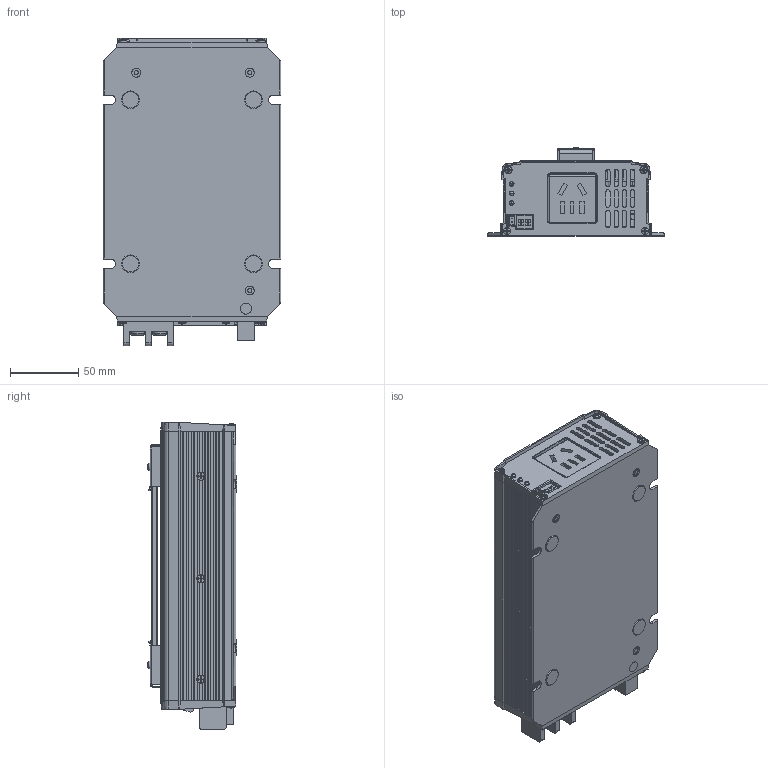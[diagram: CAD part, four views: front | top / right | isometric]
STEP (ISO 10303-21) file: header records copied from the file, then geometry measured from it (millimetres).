
FILE_DESCRIPTION(('Creo Elements/Direct Modeling STEP Export'),'2;1');
FILE_NAME('NTS-450CN.stp','2024-07-09T14:07:04',(''),(''),'PTC Creo Elements/Direct Modeling STEP processor for AP214 (Solid Model)','PTC Creo Elements/Direct Modeling 19.0E 27-Jun-2016 (C) Parametric Technology GmbH','');
FILE_SCHEMA(('AUTOMOTIVE_DESIGN { 1 0 10303 214 1 1 1 1 }'));
Length unit declared in the file: millimetre
Products named in the file (130): 中国插; 中国插.stp; CASE1下盖22; M3-5.5-3; 77; M3-5.5-1; M3-5.5-2; 下盖; FOOT_PAD_7_1.PRT.29; FOOT_PAD_7_1.PRT; FOOT_PAD_7_1.PRT.31; FOOT_PAD_7_1.PRT.30; PAD; 上盖; 19-30281-0250__w__.1; 19-30281-0250__w__.2.1; 19-30281-0250__w__.2.1.1; 19-30281-0250__w__.2; 19-30281-0250__w__.2.1.1.1; 19-30281-0250__w__; 19-30286-1312__w__.1.1.1.1; 19-30286-1312__w__.1.1.1; 19-30286-1312__w__.1; 19-30286-1312__w__.1.1; 面板螺丝; 面板螺丝2; 19-30286-1312__w__.1.2; 19-30286-1312__w__.1.2.1; 螺丝; 1HH2NTS-450; p1; 1.4; 1.5; 1.3; 1.2; 1.1; 1.6; 2.2; 2.1; 2.5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
Assembly tree (128 placements, depth 6):
  中国插.stp
    中国插
      中国插
  NTS-450CN.stp
    NTS-450
      1xx3NTS-450CN-O
        1xx3NTS-450CN-O
      1XX3NTS-450-I
      风扇螺丝
        19-30286-1312__w__.1.2.1.1.1
        19-30286-1312__w__.1.2.1.1
        19-30286-1312__w__.1.2.1
        19-30286-1312__w__.1.2
      把手
        174
        guwei1
        guwei1.1
      FAN
        26D77668-81B1-466B-87E3--601440.PRT
      输入端装配2
        ON.PRT.1
        FG.1
        TN_1
      装配2
        TF
        c2.1
        c2
        CX2
        CX1
        CX1.1
        CX2.1
        CX1.1.1
        C
      HS
        1GG1HS-SZ137.1
        1GG1HS-SZ137
        1GG4CU-SZ028
        1GG4CU-SZ030
        1GG4CU-SZ029
        1GG1HS-SZ137old
        1GG1HS-SZ138
        1GG1HS-SZ129
          PIN2-2.1
          PIN2-2
          SZ1
        1GG1HS-SZ130
          PIN2-2.1
          PIN2-2
          SZ1
      MOS
        TO220(2).2.1.1.1.2.2.1.1.1
        TO220(2).2.1.1.1.2.2.1.1
        TO220(2).2.1.1.1.2.2.1
        TO220(2).2.1.1.1.2.2
        TO220(2).2.1.1.1.2.1
        TO220(2).2.1.1.1.2
        TO220(2).2.1.1
        TO220(2).2
        TO220(2).2.1
        TO220(2).1
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Bounding box: 130 x 65.32 x 224.92 mm (x, y, z)
Volume: 475908.1 mm3; surface area: 415562.6 mm2
Topology: 103 solids, 103 shells, 5748 faces, 15242 edges, 9851 vertices
Faces by surface type: plane 4311, cylinder 938, cone 242, bspline 150, sphere 54, torus 52, extrusion 1
Entity records: 205458 total; most frequent: CARTESIAN_POINT 62455, ORIENTED_EDGE 30264, DIRECTION 26266, EDGE_CURVE 15130, VECTOR 11762, LINE 11761, VERTEX_POINT 9851, AXIS2_PLACEMENT_3D 7252
